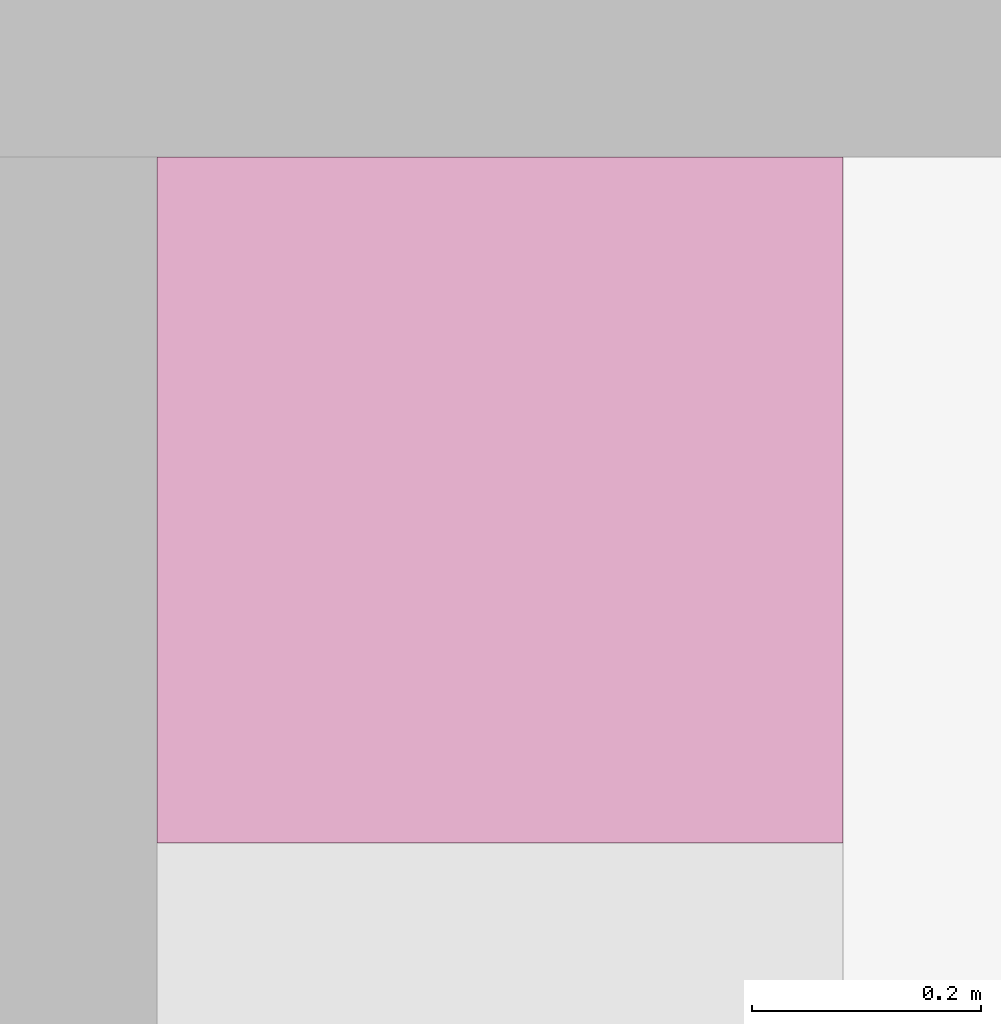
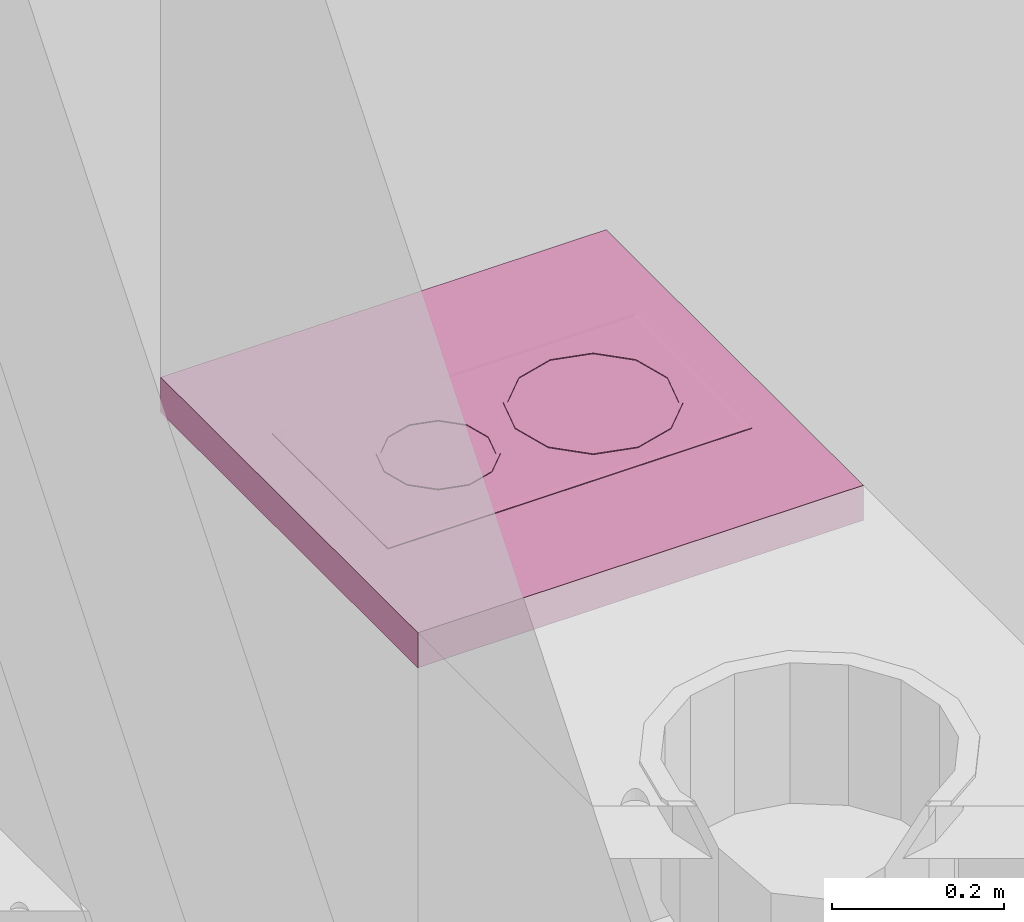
# One storey, part 157 of 165: 1 furnishing.
"""IFC2X3 building model written with IfcOpenShell, lengths in millimetres."""

from ifc_helpers import new_model, entity, si_unit, converted_unit, money_unit, direction, frame, origin_with_axes, place, context, subcontext, project, spatial, faceted_brep, source, transform, mapped, material, material_list, type_object, element, save


model = new_model("IFC2X3")

# Units and contexts
model_context = context("Model", 3, precision=1e-05, world=origin_with_axes(), true_north=direction((0.0, 1.0)))
body_context = subcontext(model_context, "Body", "Model", "MODEL_VIEW")
ifc_project = project(units=[si_unit("LENGTHUNIT", "METRE", prefix="MILLI"), si_unit("AREAUNIT", "SQUARE_METRE"), si_unit("VOLUMEUNIT", "CUBIC_METRE"), converted_unit("PLANEANGLEUNIT", "DEGREE", entity("IfcPlaneAngleMeasure", 0.0174532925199), si_unit("PLANEANGLEUNIT", "RADIAN"), dimensions=[0, 0, 0, 0, 0, 0, 0]), si_unit("SOLIDANGLEUNIT", "STERADIAN"), money_unit("USD"), converted_unit("TIMEUNIT", "Year", entity("IfcTimeMeasure", 31556926.0), si_unit("TIMEUNIT", "SECOND"), dimensions=[0, 0, 0, 0, 0, 0, 0]), si_unit("MASSUNIT", "GRAM"), si_unit("THERMODYNAMICTEMPERATUREUNIT", "DEGREE_CELSIUS"), si_unit("LUMINOUSINTENSITYUNIT", "LUMEN")], contexts=[model_context])

# Site, building, storey
site_placement = place(None, origin_with_axes())
site = spatial("IfcSite", under=ifc_project, at=site_placement, Name="Site", CompositionType="ELEMENT")
building_placement = place(site_placement, origin_with_axes())
building = spatial("IfcBuilding", under=site, at=building_placement, Name="Building", CompositionType="ELEMENT")
storey_placement = place(building_placement, frame((0.0, 0.0, 6300.0), z_axis=(0.0, 0.0, 1.0), x_axis=(1.0, 0.0, 0.0)))
storey = spatial("IfcBuildingStorey", under=building, at=storey_placement, Name="4KORRUS", CompositionType="ELEMENT", Elevation=6300.0)

# Furnishing
ifc_material = material(Name="Background")
ifc_material_list = material_list([ifc_material])
furnishing_element_type = type_object("IfcFurnishingElementType", Name="Built-in Cooktops 19")
shared_shape = source(origin_with_axes(), body_context, "Body", "Brep", [
    faceted_brep([(0.0, 0.0, 850.0), (0.0, 0.0, 900.0), (-600.0, 0.0, 900.0), (-600.0, 0.0, 850.0), (0.0, 600.0, 850.0), (0.0, 600.0, 900.0), (-600.0, 600.0, 900.0), (-600.0, 600.0, 850.0)], [[[0, 1, 2, 3]], [[4, 5, 1, 0]], [[1, 5, 6, 2]], [[3, 2, 6, 7]], [[0, 3, 7, 4]], [[7, 6, 5, 4]]]),
    faceted_brep([(-165.0, 55.0, 900.0), (-435.0, 55.0, 900.0), (-435.0, 545.0, 900.0), (-165.0, 545.0, 900.0), (-165.0, 55.0, 900.8), (-435.0, 55.0, 900.8), (-435.0, 545.0, 900.8), (-165.0, 545.0, 900.8), (-171.806, 61.806, 902.0), (-428.194, 61.806, 902.0), (-428.194, 538.194, 902.0), (-171.806, 538.194, 902.0)], [[[0, 1, 2, 3]], [[0, 4, 5, 1]], [[1, 5, 6, 2]], [[2, 6, 7, 3]], [[3, 7, 4, 0]], [[4, 8, 9, 5]], [[5, 9, 10, 6]], [[6, 10, 11, 7]], [[7, 11, 8, 4]], [[10, 9, 8, 11]]]),
    faceted_brep([(-195.0, 409.27, 902.0), (-195.0, 409.27, 903.0), (-209.067, 356.77, 903.0), (-209.067, 356.77, 902.0), (-209.067, 461.77, 902.0), (-209.067, 461.77, 903.0), (-247.5, 500.203, 903.0), (-300.0, 514.27, 903.0), (-352.5, 500.203, 903.0), (-390.933, 461.77, 903.0), (-405.0, 409.27, 903.0), (-390.933, 356.77, 903.0), (-352.5, 318.337, 903.0), (-300.0, 304.27, 903.0), (-247.5, 318.337, 903.0), (-200.0, 409.27, 903.0), (-213.397, 359.27, 903.0), (-250.0, 322.667, 903.0), (-300.0, 309.27, 903.0), (-350.0, 322.667, 903.0), (-386.603, 359.27, 903.0), (-400.0, 409.27, 903.0), (-386.603, 459.27, 903.0), (-350.0, 495.873, 903.0), (-300.0, 509.27, 903.0), (-250.0, 495.873, 903.0), (-213.397, 459.27, 903.0), (-247.5, 318.337, 902.0), (-300.0, 304.27, 902.0), (-352.5, 318.337, 902.0), (-390.933, 356.77, 902.0), (-405.0, 409.27, 902.0), (-390.933, 461.77, 902.0), (-352.5, 500.203, 902.0), (-300.0, 514.27, 902.0), (-247.5, 500.203, 902.0), (-200.0, 409.27, 902.0), (-213.397, 459.27, 902.0), (-250.0, 495.873, 902.0), (-300.0, 509.27, 902.0), (-350.0, 495.873, 902.0), (-386.603, 459.27, 902.0), (-400.0, 409.27, 902.0), (-386.603, 359.27, 902.0), (-350.0, 322.667, 902.0), (-300.0, 309.27, 902.0), (-250.0, 322.667, 902.0), (-213.397, 359.27, 902.0)], [[[0, 1, 2, 3]], [[4, 5, 1, 0]], [[1, 5, 6, 7, 8, 9, 10, 11, 12, 13, 14, 2], [15, 16, 17, 18, 19, 20, 21, 22, 23, 24, 25, 26]], [[3, 2, 14, 27]], [[0, 3, 27, 28, 29, 30, 31, 32, 33, 34, 35, 4], [36, 37, 38, 39, 40, 41, 42, 43, 44, 45, 46, 47]], [[35, 6, 5, 4]], [[34, 7, 6, 35]], [[33, 8, 7, 34]], [[32, 9, 8, 33]], [[31, 10, 9, 32]], [[30, 11, 10, 31]], [[29, 12, 11, 30]], [[28, 13, 12, 29]], [[27, 14, 13, 28]], [[47, 16, 15, 36]], [[46, 17, 16, 47]], [[45, 18, 17, 46]], [[44, 19, 18, 45]], [[43, 20, 19, 44]], [[42, 21, 20, 43]], [[41, 22, 21, 42]], [[40, 23, 22, 41]], [[39, 24, 23, 40]], [[38, 25, 24, 39]], [[37, 26, 25, 38]], [[36, 15, 26, 37]]]),
    faceted_brep([(-227.5, 200.53, 902.0), (-227.5, 200.53, 903.0), (-237.213, 164.28, 903.0), (-237.213, 164.28, 902.0), (-237.213, 236.78, 902.0), (-237.213, 236.78, 903.0), (-263.75, 263.317, 903.0), (-300.0, 273.03, 903.0), (-336.25, 263.317, 903.0), (-362.787, 236.78, 903.0), (-372.5, 200.53, 903.0), (-362.787, 164.28, 903.0), (-336.25, 137.743, 903.0), (-300.0, 128.03, 903.0), (-263.75, 137.743, 903.0), (-232.5, 200.53, 903.0), (-241.543, 166.78, 903.0), (-266.25, 142.073, 903.0), (-300.0, 133.03, 903.0), (-333.75, 142.073, 903.0), (-358.457, 166.78, 903.0), (-367.5, 200.53, 903.0), (-358.457, 234.28, 903.0), (-333.75, 258.987, 903.0), (-300.0, 268.03, 903.0), (-266.25, 258.987, 903.0), (-241.543, 234.28, 903.0), (-263.75, 137.743, 902.0), (-300.0, 128.03, 902.0), (-336.25, 137.743, 902.0), (-362.787, 164.28, 902.0), (-372.5, 200.53, 902.0), (-362.787, 236.78, 902.0), (-336.25, 263.317, 902.0), (-300.0, 273.03, 902.0), (-263.75, 263.317, 902.0), (-232.5, 200.53, 902.0), (-241.543, 234.28, 902.0), (-266.25, 258.987, 902.0), (-300.0, 268.03, 902.0), (-333.75, 258.987, 902.0), (-358.457, 234.28, 902.0), (-367.5, 200.53, 902.0), (-358.457, 166.78, 902.0), (-333.75, 142.073, 902.0), (-300.0, 133.03, 902.0), (-266.25, 142.073, 902.0), (-241.543, 166.78, 902.0)], [[[0, 1, 2, 3]], [[4, 5, 1, 0]], [[1, 5, 6, 7, 8, 9, 10, 11, 12, 13, 14, 2], [15, 16, 17, 18, 19, 20, 21, 22, 23, 24, 25, 26]], [[3, 2, 14, 27]], [[0, 3, 27, 28, 29, 30, 31, 32, 33, 34, 35, 4], [36, 37, 38, 39, 40, 41, 42, 43, 44, 45, 46, 47]], [[35, 6, 5, 4]], [[34, 7, 6, 35]], [[33, 8, 7, 34]], [[32, 9, 8, 33]], [[31, 10, 9, 32]], [[30, 11, 10, 31]], [[29, 12, 11, 30]], [[28, 13, 12, 29]], [[27, 14, 13, 28]], [[47, 16, 15, 36]], [[46, 17, 16, 47]], [[45, 18, 17, 46]], [[44, 19, 18, 45]], [[43, 20, 19, 44]], [[42, 21, 20, 43]], [[41, 22, 21, 42]], [[40, 23, 22, 41]], [[39, 24, 23, 40]], [[38, 25, 24, 39]], [[37, 26, 25, 38]], [[36, 15, 26, 37]]]),
])
furnishing_placement = place(storey_placement, frame((-17990.2967033, -13789.2398994, 0.0), z_axis=(0.0, 0.0, 1.0), x_axis=(0.0, -1.0, 0.0)))
element("IfcFurnishingElement", 1, at=furnishing_placement, inside=storey, type_object=furnishing_element_type, material=ifc_material_list, Name="FU - 007", context=body_context, shape_type="MappedRepresentation", body=[
    mapped(shared_shape, transform((0.0, 0.0, 0.0))),
])

save(model, "model.ifc")
